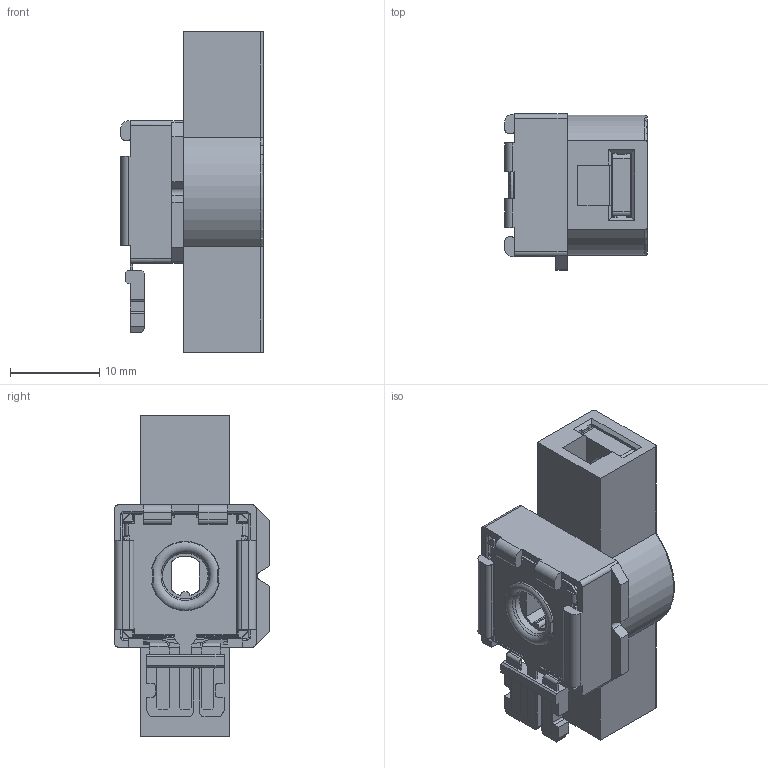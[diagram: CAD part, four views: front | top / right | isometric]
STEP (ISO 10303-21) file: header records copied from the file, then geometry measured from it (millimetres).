
FILE_DESCRIPTION(/* description */ (''),/* implementation_level */ '2;1');
FILE_NAME(/* name */ 'C:\Users\CEM\Desktop\ENVIAR\TRANSICION 3D CATALOGOS\QC16RHPL.stp',/* time_stamp */ '2025-11-19T17:24:43+01:00',/* author */ ('CEM'),/* organization */ (''),/* preprocessor_version */ 'ST-DEVELOPER v16.13',/* originating_system */ 'Autodesk Inventor 2018',/* authorisation */ '');
FILE_SCHEMA (('AUTOMOTIVE_DESIGN { 1 0 10303 214 3 1 1 }'));
Length unit declared in the file: millimetre
Products named in the file (1): QC16RHPL
Bounding box: 16 x 17.5 x 36 mm (x, y, z)
Volume: 4110.5 mm3; surface area: 4885.8 mm2
Topology: 1 solids, 2 shells, 848 faces, 2455 edges, 1574 vertices
Faces by surface type: plane 651, cylinder 173, cone 11, torus 7, bspline 6
Full cylindrical faces by diameter (mm): 1 x3, 3.242 x2, 4.35 x2, 5.5 x1, 5.65 x1, 5.8 x1, 6 x1, 6.15 x1, 6.5 x1, 6.87 x1, 6.971 x3, 9.5 x1, 13 x1
Entity records: 28634 total; most frequent: CARTESIAN_POINT 5174, ORIENTED_EDGE 4844, DIRECTION 4529, EDGE_CURVE 2416, LINE 1913, VECTOR 1913, VERTEX_POINT 1561, AXIS2_PLACEMENT_3D 1308
